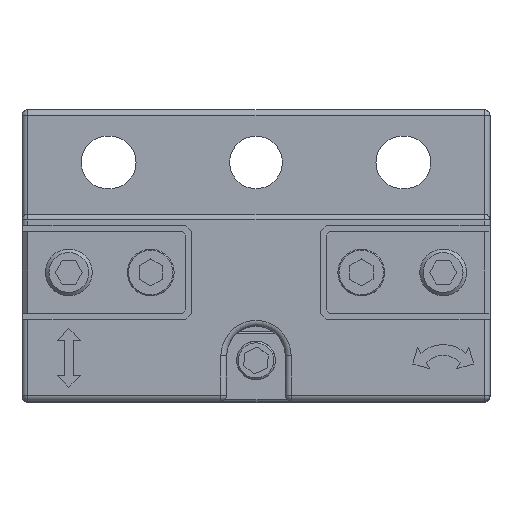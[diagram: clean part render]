
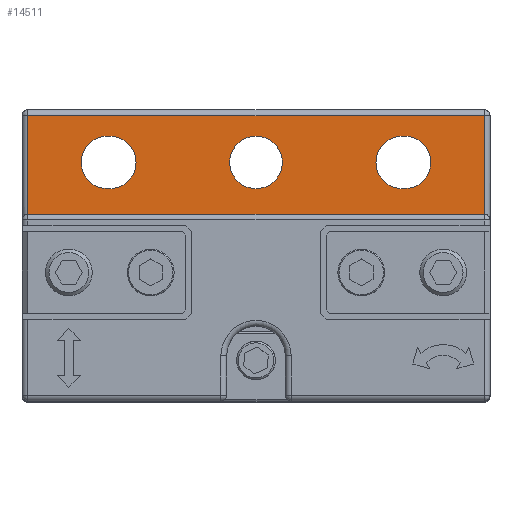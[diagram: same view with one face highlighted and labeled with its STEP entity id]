
A CAD part, top view. The second image highlights one B-rep face of the part: STEP entity #14511.
In plain terms, the highlighted planar face has unit normal (0, 0, 1).
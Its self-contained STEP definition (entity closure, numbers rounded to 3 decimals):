
#747=LINE('',#22208,#2126);
#759=LINE('',#22244,#2138);
#805=LINE('',#22615,#2184);
#807=LINE('',#22621,#2186);
#809=LINE('',#22624,#2188);
#814=LINE('',#22632,#2193);
#815=LINE('',#22634,#2194);
#816=LINE('',#22637,#2195);
#2126=VECTOR('',#17564,10.);
#2138=VECTOR('',#17604,10.);
#2184=VECTOR('',#17844,10.);
#2186=VECTOR('',#17852,10.);
#2188=VECTOR('',#17856,10.);
#2193=VECTOR('',#17867,10.);
#2194=VECTOR('',#17868,10.);
#2195=VECTOR('',#17871,10.);
#3482=FACE_BOUND('',#4624,.T.);
#3483=FACE_BOUND('',#4625,.T.);
#3484=FACE_BOUND('',#4626,.T.);
#3706=FACE_OUTER_BOUND('',#4623,.T.);
#4623=EDGE_LOOP('',(#10367,#10368,#10369,#10370));
#4624=EDGE_LOOP('',(#10371));
#4625=EDGE_LOOP('',(#10372,#10373,#10374,#10375));
#4626=EDGE_LOOP('',(#10376,#10377,#10378,#10379));
#5494=CIRCLE('',#15538,2.25);
#5497=CIRCLE('',#15543,2.25);
#5500=CIRCLE('',#15552,2.25);
#5544=CIRCLE('',#15655,2.25);
#5545=CIRCLE('',#15656,2.25);
#6307=VERTEX_POINT('',#22205);
#6308=VERTEX_POINT('',#22207);
#6309=VERTEX_POINT('',#22211);
#6312=VERTEX_POINT('',#22221);
#6317=VERTEX_POINT('',#22241);
#6318=VERTEX_POINT('',#22243);
#6319=VERTEX_POINT('',#22247);
#6377=VERTEX_POINT('',#22601);
#6379=VERTEX_POINT('',#22607);
#6380=VERTEX_POINT('',#22611);
#6381=VERTEX_POINT('',#22617);
#6382=VERTEX_POINT('',#22633);
#6383=VERTEX_POINT('',#22636);
#7749=EDGE_CURVE('',#6308,#6307,#747,.T.);
#7752=EDGE_CURVE('',#6307,#6309,#5494,.T.);
#7757=EDGE_CURVE('',#6312,#6312,#5497,.T.);
#7767=EDGE_CURVE('',#6318,#6317,#759,.T.);
#7770=EDGE_CURVE('',#6317,#6319,#5500,.T.);
#7875=EDGE_CURVE('',#6380,#6379,#805,.T.);
#7878=EDGE_CURVE('',#6381,#6380,#807,.T.);
#7880=EDGE_CURVE('',#6379,#6377,#809,.T.);
#7885=EDGE_CURVE('',#6381,#6377,#814,.T.);
#7886=EDGE_CURVE('',#6309,#6382,#815,.T.);
#7887=EDGE_CURVE('',#6382,#6308,#5544,.T.);
#7888=EDGE_CURVE('',#6319,#6383,#816,.T.);
#7889=EDGE_CURVE('',#6383,#6318,#5545,.T.);
#10367=ORIENTED_EDGE('',*,*,#7880,.F.);
#10368=ORIENTED_EDGE('',*,*,#7875,.F.);
#10369=ORIENTED_EDGE('',*,*,#7878,.F.);
#10370=ORIENTED_EDGE('',*,*,#7885,.T.);
#10371=ORIENTED_EDGE('',*,*,#7757,.T.);
#10372=ORIENTED_EDGE('',*,*,#7752,.T.);
#10373=ORIENTED_EDGE('',*,*,#7886,.T.);
#10374=ORIENTED_EDGE('',*,*,#7887,.T.);
#10375=ORIENTED_EDGE('',*,*,#7749,.T.);
#10376=ORIENTED_EDGE('',*,*,#7770,.T.);
#10377=ORIENTED_EDGE('',*,*,#7888,.T.);
#10378=ORIENTED_EDGE('',*,*,#7889,.T.);
#10379=ORIENTED_EDGE('',*,*,#7767,.T.);
#13982=PLANE('',#15654);
#14511=ADVANCED_FACE('',(#3706,#3482,#3483,#3484),#13982,.T.);
#15538=AXIS2_PLACEMENT_3D('',#22213,#17569,#17570);
#15543=AXIS2_PLACEMENT_3D('',#22223,#17581,#17582);
#15552=AXIS2_PLACEMENT_3D('',#22249,#17609,#17610);
#15654=AXIS2_PLACEMENT_3D('',#22631,#17865,#17866);
#15655=AXIS2_PLACEMENT_3D('',#22635,#17869,#17870);
#15656=AXIS2_PLACEMENT_3D('',#22638,#17872,#17873);
#17564=DIRECTION('',(-1.,0.,0.));
#17569=DIRECTION('center_axis',(0.,0.,-1.));
#17570=DIRECTION('ref_axis',(0.,1.,0.));
#17581=DIRECTION('center_axis',(0.,0.,-1.));
#17582=DIRECTION('ref_axis',(-1.,0.,0.));
#17604=DIRECTION('',(1.,0.,0.));
#17609=DIRECTION('center_axis',(0.,0.,-1.));
#17610=DIRECTION('ref_axis',(0.,-1.,0.));
#17844=DIRECTION('',(1.,0.,0.));
#17852=DIRECTION('',(0.,1.,0.));
#17856=DIRECTION('',(0.,-1.,0.));
#17865=DIRECTION('center_axis',(0.,0.,1.));
#17866=DIRECTION('ref_axis',(1.,0.,0.));
#17867=DIRECTION('',(1.,0.,0.));
#17868=DIRECTION('',(1.,0.,0.));
#17869=DIRECTION('center_axis',(0.,0.,-1.));
#17870=DIRECTION('ref_axis',(0.,-1.,0.));
#17871=DIRECTION('',(-1.,0.,0.));
#17872=DIRECTION('center_axis',(0.,0.,-1.));
#17873=DIRECTION('ref_axis',(0.,1.,0.));
#22205=CARTESIAN_POINT('',(14.5,7.25,-20.));
#22207=CARTESIAN_POINT('',(14.7,7.25,-20.));
#22208=CARTESIAN_POINT('',(8.35,7.25,-20.));
#22211=CARTESIAN_POINT('',(14.5,11.75,-20.));
#22213=CARTESIAN_POINT('Origin',(14.5,9.5,-20.));
#22221=CARTESIAN_POINT('',(4.25,9.5,-20.));
#22223=CARTESIAN_POINT('Origin',(2.,9.5,-20.));
#22241=CARTESIAN_POINT('',(-10.5,11.75,-20.));
#22243=CARTESIAN_POINT('',(-10.7,11.75,-20.));
#22244=CARTESIAN_POINT('',(-4.35,11.75,-20.));
#22247=CARTESIAN_POINT('',(-10.5,7.25,-20.));
#22249=CARTESIAN_POINT('Origin',(-10.5,9.5,-20.));
#22601=CARTESIAN_POINT('',(21.5,5.,-20.));
#22607=CARTESIAN_POINT('',(21.5,13.5,-20.));
#22611=CARTESIAN_POINT('',(-17.5,13.5,-20.));
#22615=CARTESIAN_POINT('',(-8.,13.5,-20.));
#22617=CARTESIAN_POINT('',(-17.5,5.,-20.));
#22621=CARTESIAN_POINT('',(-17.5,3.25,-20.));
#22624=CARTESIAN_POINT('',(21.5,-4.75,-20.));
#22631=CARTESIAN_POINT('Origin',(2.,1.5,-20.));
#22632=CARTESIAN_POINT('',(-18.,5.,-20.));
#22633=CARTESIAN_POINT('',(14.7,11.75,-20.));
#22634=CARTESIAN_POINT('',(8.25,11.75,-20.));
#22635=CARTESIAN_POINT('Origin',(14.7,9.5,-20.));
#22636=CARTESIAN_POINT('',(-10.7,7.25,-20.));
#22637=CARTESIAN_POINT('',(-4.25,7.25,-20.));
#22638=CARTESIAN_POINT('Origin',(-10.7,9.5,-20.));
